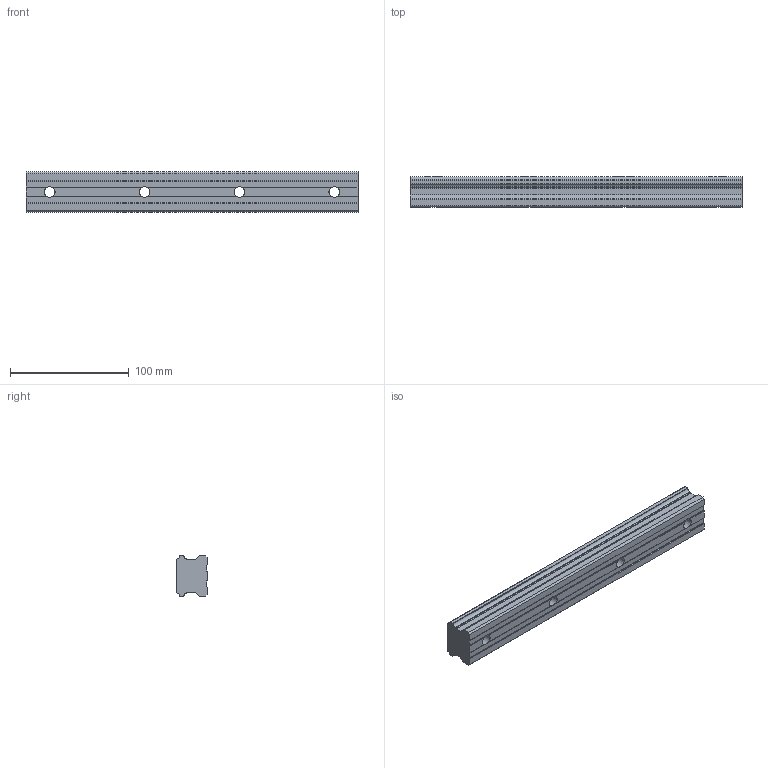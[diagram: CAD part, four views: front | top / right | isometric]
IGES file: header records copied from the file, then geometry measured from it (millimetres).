
Start section: Data from Parasolid IGES Translator 26.0.171, Copyright(c) 2006 Siemens PLM Software. All Rights Reserved.
Global section: file name: SHS35-280L(GK) RAIL(20).igs; native system: By Siemens PLM Incorporated; preprocessor: XPlus GENERIC/IGES 26.0.171; author: Noname; organization: Noname; date: 20240514.034219; units: millimetre
Bounding box: 280 x 26 x 34 mm (x, y, z)
Surface area: 38961.8 mm2 (no closed solid volume)
Topology: 0 solids, 0 shells, 80 faces, 468 edges, 456 vertices
Faces by surface type: revolution 40, extrusion 40
